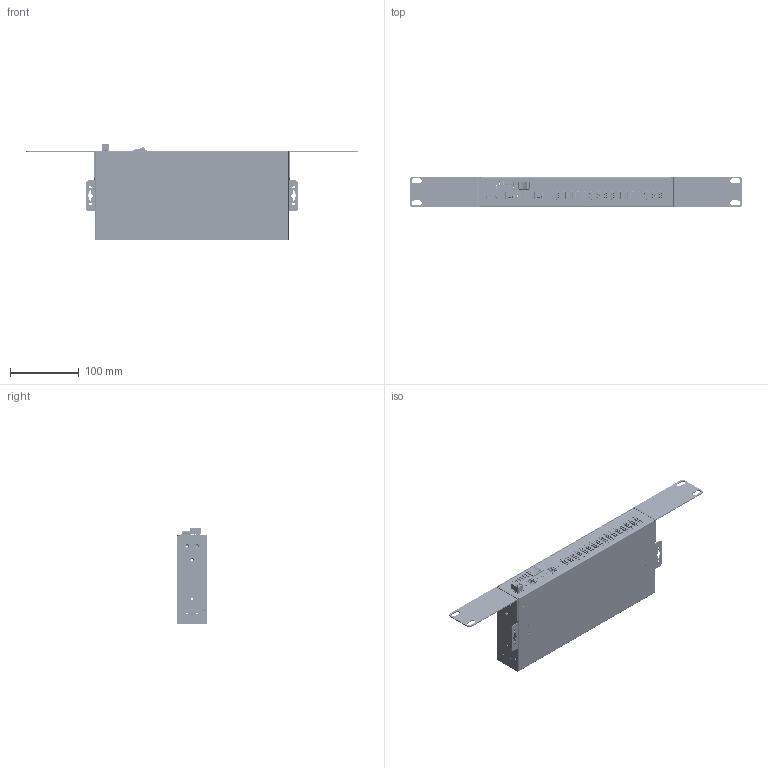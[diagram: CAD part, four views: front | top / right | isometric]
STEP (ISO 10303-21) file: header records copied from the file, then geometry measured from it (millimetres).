
FILE_DESCRIPTION(/* description */ (''),/* implementation_level */ '2;1');
FILE_NAME(/* name */ 'C:/Users/Leo/Desktop/USB3-16U1/USB3-16u1 Model3D LPV1.step',/* time_stamp */ '2021-05-12T13:40:51-04:00',/* author */ (''),/* organization */ (''),/* preprocessor_version */ 'ST-DEVELOPER v18.1',/* originating_system */ 'Autodesk Translation Framework v10.6.0.1341',/* authorisation */ '');
FILE_SCHEMA (('AUTOMOTIVE_DESIGN { 1 0 10303 214 3 1 1 }'));
Products named in the file (5): USB3-16u1; Connector green phoenix 2pines male 5.08 v6; Bolt M3X0.5 100Angle 5mmHead.5 China 120ang METRIC 18-8 SS FLAT HEAD 
PHIL MACHINE SCREW v2; Component5; Component41
Assembly tree (12 placements, depth 2):
  USB3-16u1
    Component5  x2
    Connector green phoenix 2pines male 5.08 v6
    Bolt M3X0.5 100Angle 5mmHead.5 China 120ang METRIC 18-8 SS FLAT HEAD 
PHIL MACHINE SCREW v2  x8
    Component41
Bounding box: 482.21 x 44.29 x 140.57 mm (x, y, z)
Volume: 209361.6 mm3; surface area: 360064.8 mm2
Topology: 5 solids, 215 shells, 29796 faces, 87363 edges, 56562 vertices
Faces by surface type: plane 23851, cylinder 4901, bspline 880, cone 84, torus 63, sphere 17
Full cylindrical faces by diameter (mm): 0.399 x2, 0.798 x1, 1 x1, 1.383 x12, 1.5 x1, 1.6 x2, 2.06 x36, 2.35 x30, 2.529 x22, 2.66 x1, 2.89 x3, 2.926 x1, 3 x39, 3.1 x5, 3.35 x3, 3.8 x4, 3.86 x2, 3.99 x2, 4.522 x4, 4.765 x5, 5.4 x5, 6.251 x4, 6.65 x1, 19.95 x1, 21.28 x1, 23.009 x1, 37.639 x1
Entity records: 996550 total; most frequent: CARTESIAN_POINT 200712, ORIENTED_EDGE 174530, DIRECTION 153320, EDGE_CURVE 87265, LINE 75116, VECTOR 75116, VERTEX_POINT 56513, AXIS2_PLACEMENT_3D 39102
